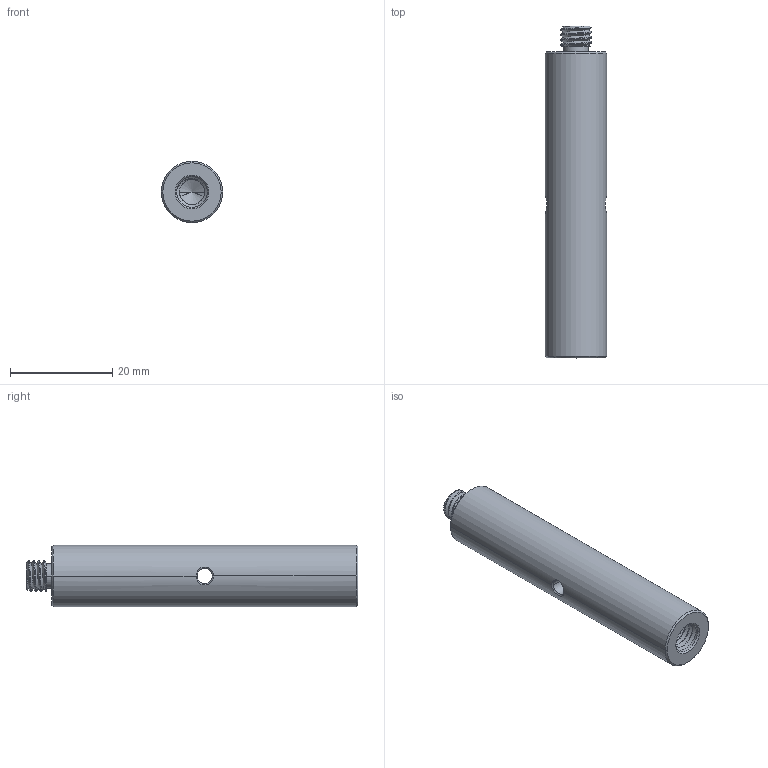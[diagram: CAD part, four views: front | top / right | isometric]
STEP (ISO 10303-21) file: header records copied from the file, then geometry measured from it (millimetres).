
FILE_DESCRIPTION((''),'2;1');
FILE_NAME('PCA6-A','2021-01-06T',('Administrator'),(''),'CREO PARAMETRIC BY PTC INC, 2015290','CREO PARAMETRIC BY PTC INC, 2015290','');
FILE_SCHEMA(('CONFIG_CONTROL_DESIGN'));
Length unit declared in the file: millimetre
Products named in the file (1): PCA6-A
Bounding box: 12 x 65 x 12 mm (x, y, z)
Volume: 6508.9 mm3; surface area: 3000.4 mm2
Topology: 1 solids, 1 shells, 67 faces, 173 edges, 106 vertices
Faces by surface type: cylinder 34, bspline 18, cone 9, plane 6
Entity records: 4892 total; most frequent: CARTESIAN_POINT 3443, ORIENTED_EDGE 342, DIRECTION 206, EDGE_CURVE 171, VERTEX_POINT 106, B_SPLINE_CURVE_WITH_KNOTS 85, AXIS2_PLACEMENT_3D 71, EDGE_LOOP 69
